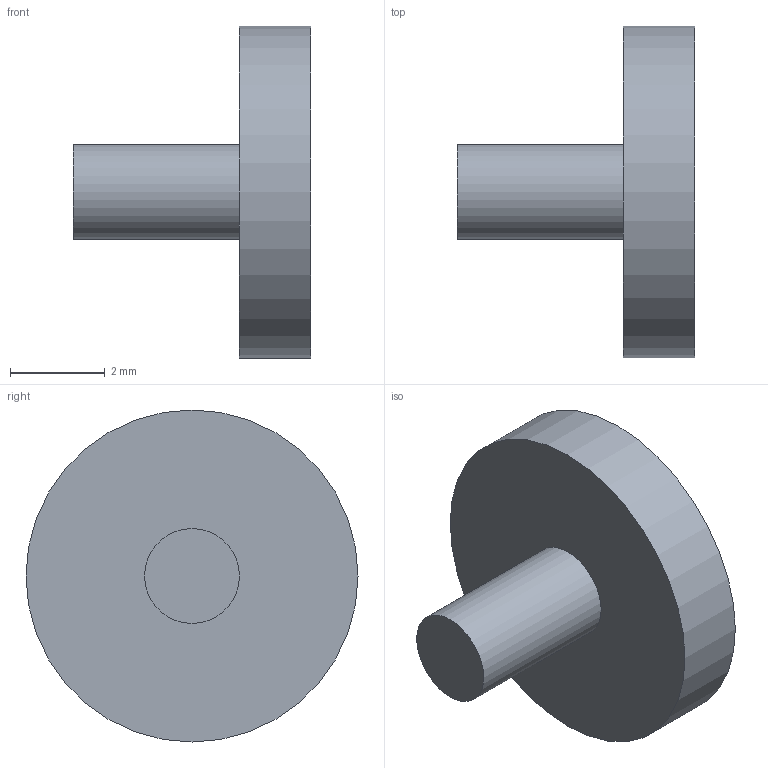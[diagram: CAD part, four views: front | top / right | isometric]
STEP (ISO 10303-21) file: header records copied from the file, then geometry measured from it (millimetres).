
FILE_DESCRIPTION(('Open CASCADE Model'),'2;1');
FILE_NAME('B3_R12_guide_2_right_retainer','2026-09-28T18:24:07',( 'Author'),('Open CASCADE'),'Open CASCADE STEP processor 7.9', 'build123d','Unknown');
FILE_SCHEMA(('AUTOMOTIVE_DESIGN { 1 0 10303 214 1 1 1 1 }'));
Length unit declared in the file: millimetre
Products named in the file (1): B3_R12_guide_2_right_retainer
Bounding box: 5 x 7 x 7 mm (x, y, z)
Volume: 68.7 mm3; surface area: 131.9 mm2
Topology: 1 solids, 1 shells, 5 faces, 6 edges, 4 vertices
Faces by surface type: plane 3, cylinder 2
Full cylindrical faces by diameter (mm): 2 x1, 7 x1
Entity records: 203 total; most frequent: DIRECTION 34, CARTESIAN_POINT 28, ORIENTED_EDGE 12, PCURVE 12, DEFINITIONAL_REPRESENTATION 12, AXIS2_PLACEMENT_3D 10, LINE 10, VECTOR 10
